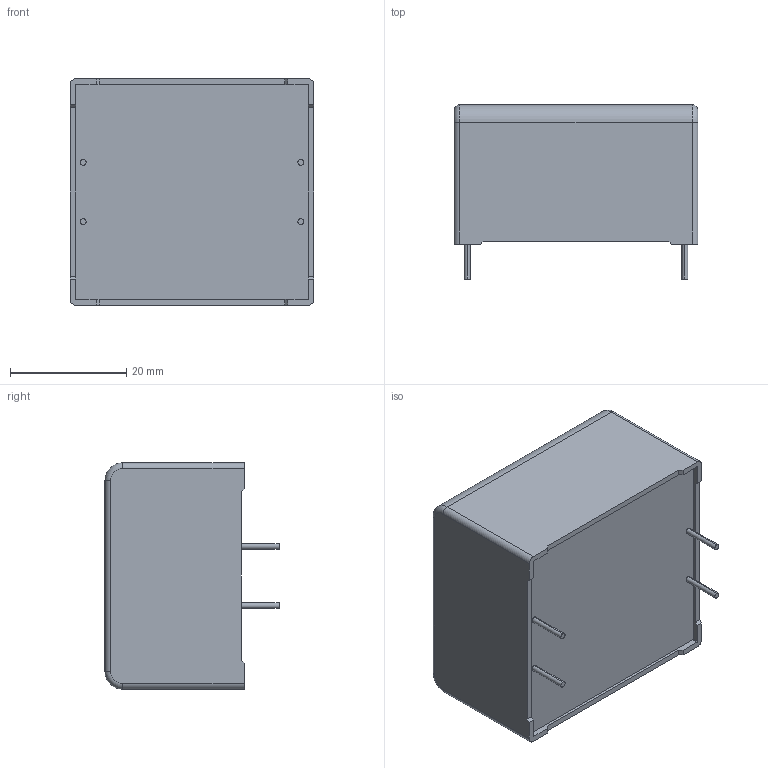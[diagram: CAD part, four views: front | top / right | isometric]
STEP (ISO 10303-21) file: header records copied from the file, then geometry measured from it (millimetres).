
FILE_DESCRIPTION (( 'STEP AP203' ), '1' );
FILE_NAME ('DC_Link_39x24x42_4pins10.2.step', '2017-04-03T16:00:18', ( 'work' ), ( 'Hewlett-Packard Company' ), 'SwSTEP 2.0', 'SolidWorks 2017', '' );
FILE_SCHEMA (( 'CONFIG_CONTROL_DESIGN' ));
Length unit declared in the file: millimetre
Products named in the file (1): DC_Link_39x24x42_4pins10.2
Bounding box: 42 x 30 x 39 mm (x, y, z)
Volume: 37593.8 mm3; surface area: 7093.9 mm2
Topology: 1 solids, 1 shells, 122 faces, 319 edges, 210 vertices
Faces by surface type: plane 82, cylinder 20, bspline 16, torus 4
Entity records: 4492 total; most frequent: CARTESIAN_POINT 1476, ORIENTED_EDGE 638, DIRECTION 545, EDGE_CURVE 319, LINE 243, VECTOR 243, VERTEX_POINT 210, AXIS2_PLACEMENT_3D 151
